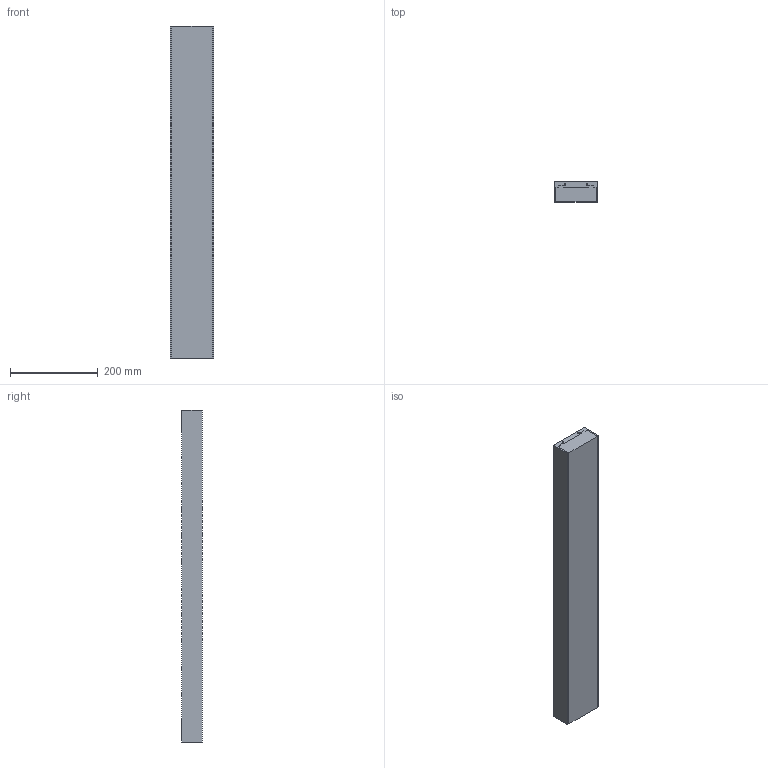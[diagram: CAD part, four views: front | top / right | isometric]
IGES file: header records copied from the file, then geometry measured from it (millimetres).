
Global section: file name: No Iges File Name specified; native system: AutoDesk Inventor R12.0; preprocessor: AutoDesk Inventor Iges Exporter R12.0; date: 20081121.155100; units: inch
Bounding box: 100 x 46 x 755.5 mm (x, y, z)
Volume: 3466510 mm3; surface area: 236076.1 mm2
Topology: 1 solids, 1 shells, 152 faces, 383 edges, 210 vertices
Faces by surface type: bspline 112, plane 20, cylinder 10, torus 10
